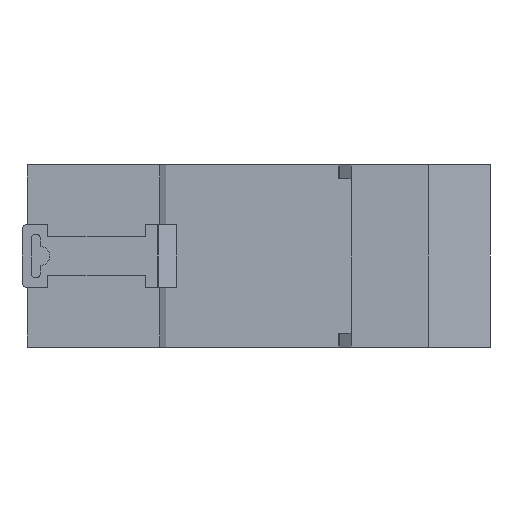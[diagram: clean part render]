
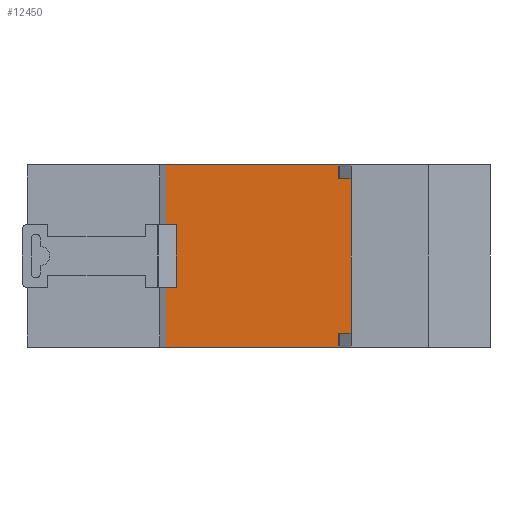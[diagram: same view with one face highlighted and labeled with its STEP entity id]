
A CAD part, left-side view. The second image highlights one B-rep face of the part: STEP entity #12450.
In plain terms, the highlighted planar face has unit normal (-1, 0, 0).
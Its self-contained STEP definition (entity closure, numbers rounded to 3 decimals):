
#111 = EDGE_CURVE ( 'NONE', #329, #11957, #606, .T. ) ;
#329 = VERTEX_POINT ( 'NONE', #1248 ) ;
#606 = LINE ( 'NONE', #10722, #5921 ) ;
#743 = VECTOR ( 'NONE', #12611, 1000. ) ;
#763 = CARTESIAN_POINT ( 'NONE',  ( -60., -4.25, 35.4 ) ) ;
#767 = CARTESIAN_POINT ( 'NONE',  ( -60., -40.25, 0. ) ) ;
#780 = VERTEX_POINT ( 'NONE', #3189 ) ;
#1248 = CARTESIAN_POINT ( 'NONE',  ( -60., -40.25, 35.4 ) ) ;
#1828 = EDGE_CURVE ( 'NONE', #2817, #329, #10146, .T. ) ;
#1935 = EDGE_LOOP ( 'NONE', ( #6743, #10732, #6018, #5555 ) ) ;
#2817 = VERTEX_POINT ( 'NONE', #6592 ) ;
#2911 = DIRECTION ( 'NONE',  ( 1., 0., 0. ) ) ;
#3189 = CARTESIAN_POINT ( 'NONE',  ( -60., -4.25, 0. ) ) ;
#3423 = EDGE_CURVE ( 'NONE', #780, #11957, #5592, .T. ) ;
#4517 = DIRECTION ( 'NONE',  ( 0., 0., -1. ) ) ;
#4632 = PLANE ( 'NONE',  #11724 ) ;
#5555 = ORIENTED_EDGE ( 'NONE', *, *, #8165, .T. ) ;
#5592 = LINE ( 'NONE', #10572, #743 ) ;
#5888 = DIRECTION ( 'NONE',  ( 0., 0., -1. ) ) ;
#5921 = VECTOR ( 'NONE', #5888, 1000. ) ;
#5936 = LINE ( 'NONE', #763, #11572 ) ;
#6018 = ORIENTED_EDGE ( 'NONE', *, *, #1828, .F. ) ;
#6354 = VECTOR ( 'NONE', #7572, 1000. ) ;
#6592 = CARTESIAN_POINT ( 'NONE',  ( -60., -4.25, 35.4 ) ) ;
#6743 = ORIENTED_EDGE ( 'NONE', *, *, #3423, .T. ) ;
#7531 = CARTESIAN_POINT ( 'NONE',  ( -60., -4.25, 35.4 ) ) ;
#7572 = DIRECTION ( 'NONE',  ( 0., -1., 0. ) ) ;
#8165 = EDGE_CURVE ( 'NONE', #2817, #780, #5936, .T. ) ;
#10146 = LINE ( 'NONE', #12404, #6354 ) ;
#10393 = FACE_OUTER_BOUND ( 'NONE', #1935, .T. ) ;
#10572 = CARTESIAN_POINT ( 'NONE',  ( -60., -4.25, 0. ) ) ;
#10722 = CARTESIAN_POINT ( 'NONE',  ( -60., -40.25, 35.4 ) ) ;
#10732 = ORIENTED_EDGE ( 'NONE', *, *, #111, .F. ) ;
#11572 = VECTOR ( 'NONE', #4517, 1000. ) ;
#11724 = AXIS2_PLACEMENT_3D ( 'NONE', #7531, #2911, #12619 ) ;
#11957 = VERTEX_POINT ( 'NONE', #767 ) ;
#12404 = CARTESIAN_POINT ( 'NONE',  ( -60., -4.25, 35.4 ) ) ;
#12450 = ADVANCED_FACE ( 'NONE', ( #10393 ), #4632, .F. ) ;
#12611 = DIRECTION ( 'NONE',  ( 0., -1., 0. ) ) ;
#12619 = DIRECTION ( 'NONE',  ( 0., 1., 0. ) ) ;
